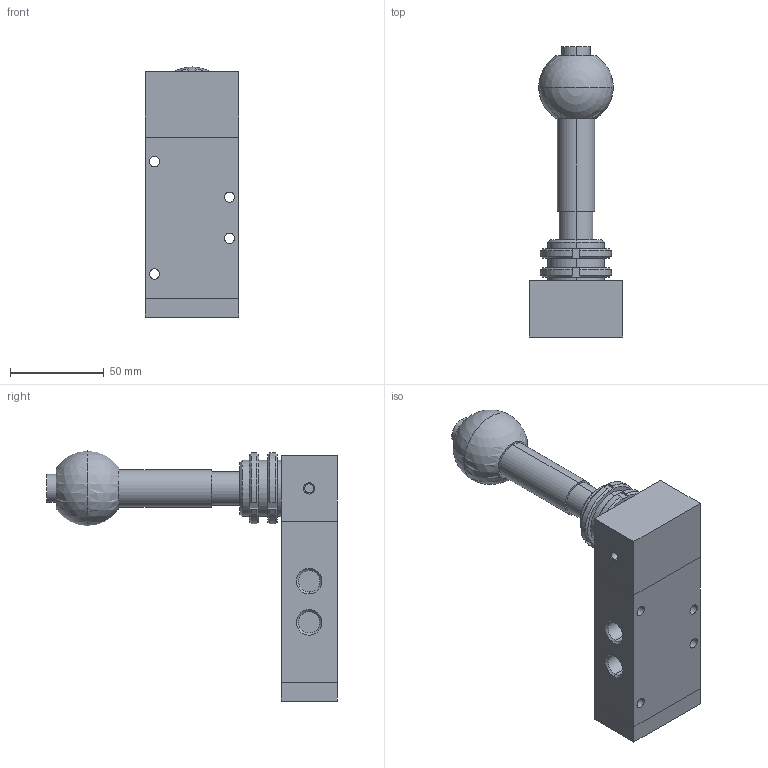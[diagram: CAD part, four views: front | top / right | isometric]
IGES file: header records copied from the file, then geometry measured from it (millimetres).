
Global section: file name: No Iges File Name specified; native system: AutoDesk Inventor R11.0; preprocessor: AutoDesk Inventor Iges Exporter R11.0; author: No Author specified; organization: No Organization specified; date: 20061220.115546; units: millimetre
Bounding box: 50 x 155 x 133.5 mm (x, y, z)
Volume: 259328.5 mm3; surface area: 42262.6 mm2
Topology: 3 solids, 3 shells, 128 faces, 302 edges, 192 vertices
Faces by surface type: plane 44, bspline 38, revolution 16, cylinder 14, cone 14, sphere 2
